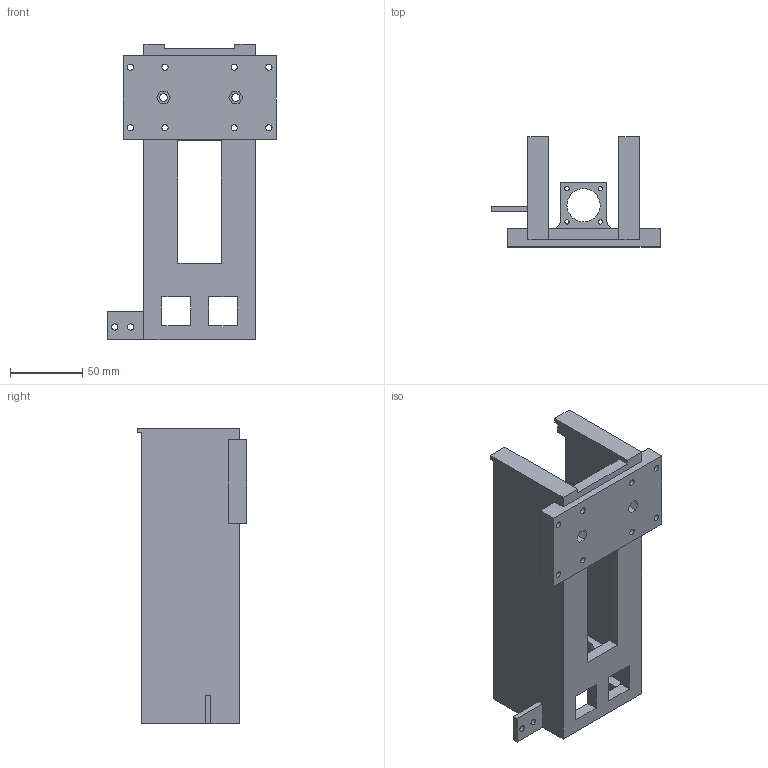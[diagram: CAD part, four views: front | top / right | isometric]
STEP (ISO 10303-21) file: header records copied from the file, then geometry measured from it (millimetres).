
FILE_DESCRIPTION(/* description */ (''),/* implementation_level */ '2;1');
FILE_NAME(/* name */ '/Users/davidflorian/Library/Mobile Documents/com~apple~CloudDocs/Vanderbilt/Papers/OTTO/Supplemental Material/3D-Printable-Components-STEP-Files/Pipette-Housing-Body.step',/* time_stamp */ '2020-06-30T22:43:49-05:00',/* author */ (''),/* organization */ (''),/* preprocessor_version */ 'ST-DEVELOPER v18.1',/* originating_system */ 'Autodesk Translation Framework v9.3.0.1241',/* authorisation */ '');
FILE_SCHEMA (('AUTOMOTIVE_DESIGN { 1 0 10303 214 3 1 1 }'));
Length unit declared in the file: millimetre
Products named in the file (1): Floating-Pipette
Bounding box: 116.58 x 76.17 x 205.05 mm (x, y, z)
Volume: 332112.2 mm3; surface area: 98232.1 mm2
Topology: 1 solids, 1 shells, 108 faces, 291 edges, 194 vertices
Faces by surface type: plane 81, cylinder 27
Full cylindrical faces by diameter (mm): 3 x4, 4.3 x8, 4.4 x2, 5.35 x4, 5.4 x2, 23 x1
Entity records: 3482 total; most frequent: CARTESIAN_POINT 594, ORIENTED_EDGE 582, DIRECTION 563, EDGE_CURVE 291, LINE 237, VECTOR 237, VERTEX_POINT 194, AXIS2_PLACEMENT_3D 163
